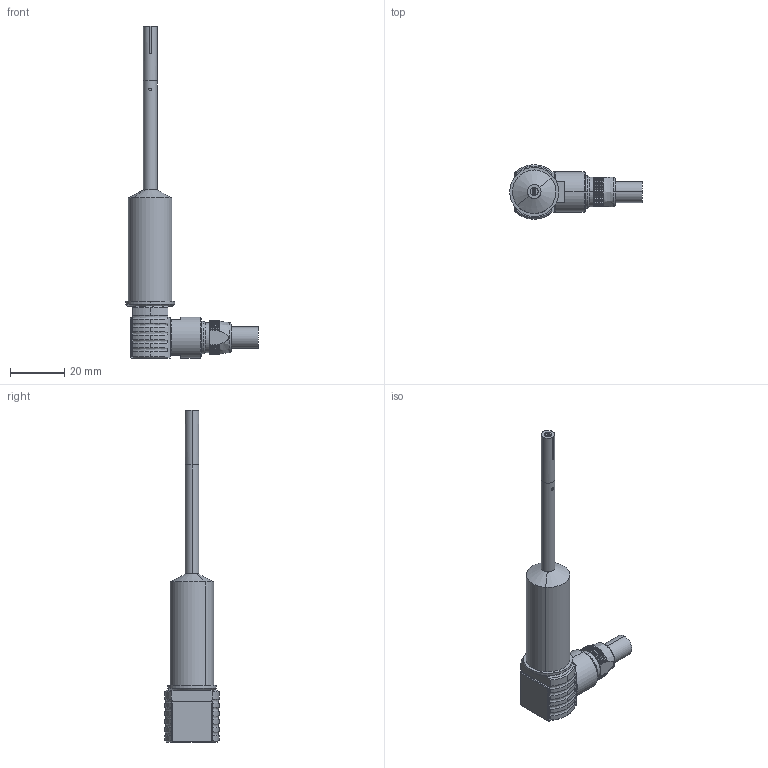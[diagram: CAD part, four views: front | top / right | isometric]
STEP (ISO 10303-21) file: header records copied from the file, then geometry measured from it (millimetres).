
FILE_DESCRIPTION (( 'STEP AP214' ), '1' );
FILE_NAME ('RISO5_lang_Stecker_rw.STEP', '2011-02-21T00:58:31', ( '' ), ( '' ), 'SwSTEP 2.0', 'SolidWorks 2010', '' );
FILE_SCHEMA (( 'AUTOMOTIVE_DESIGN' ));
Length unit declared in the file: millimetre
Products named in the file (1): RISO5_lang_Stecker_rw
Bounding box: 48.7 x 20 x 122 mm (x, y, z)
Surface area: 6333.5 mm2 (no closed solid volume)
Topology: 0 solids, 10 shells, 1299 faces, 2637 edges, 1327 vertices
Faces by surface type: plane 689, bspline 562, cylinder 40, cone 8
Entity records: 51544 total; most frequent: CARTESIAN_POINT 16702, ORIENTED_EDGE 5096, DIRECTION 3451, EDGE_CURVE 2635, AXIS2_PLACEMENT_3D 1442, VERTEX_POINT 1327, EDGE_LOOP 1310, UNCERTAINTY_MEASURE_WITH_UNIT 1301
